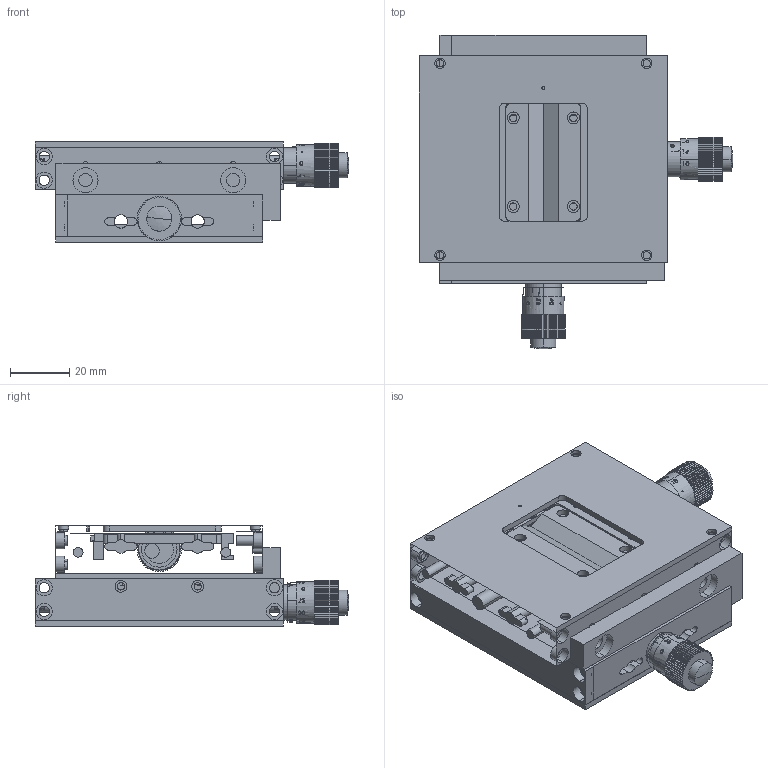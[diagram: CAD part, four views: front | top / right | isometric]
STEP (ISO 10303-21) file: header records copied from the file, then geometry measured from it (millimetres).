
FILE_DESCRIPTION (( 'STEP AP214' ), '1' );
FILE_NAME ('PF05-12S.STEP', '2022-08-28T07:51:23', ( '' ), ( '' ), 'SwSTEP 2.0', 'SolidWorks 2017', '' );
FILE_SCHEMA (( 'AUTOMOTIVE_DESIGN' ));
Length unit declared in the file: millimetre
Products named in the file (1): PF05-12S
Bounding box: 106.12 x 106.12 x 34 mm (x, y, z)
Surface area: 55507.3 mm2 (no closed solid volume)
Topology: 0 solids, 26 shells, 909 faces, 3082 edges, 2274 vertices
Faces by surface type: plane 492, cylinder 373, bspline 32, cone 12
Full cylindrical faces by diameter (mm): 2.5 x2
Entity records: 44889 total; most frequent: CARTESIAN_POINT 15106, ORIENTED_EDGE 5371, DIRECTION 4265, EDGE_CURVE 3085, VERTEX_POINT 2278, AXIS2_PLACEMENT_3D 1433, LINE 1399, VECTOR 1399
